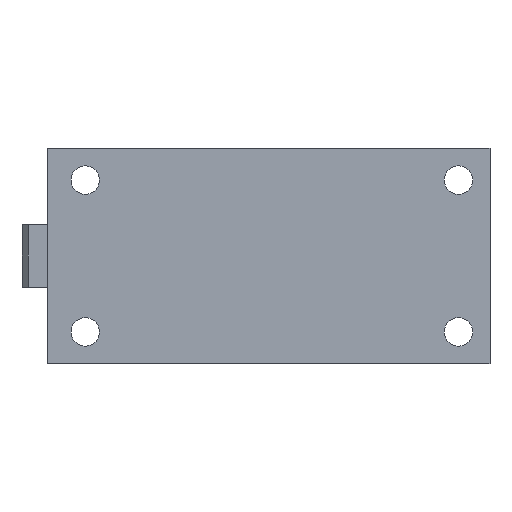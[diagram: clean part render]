
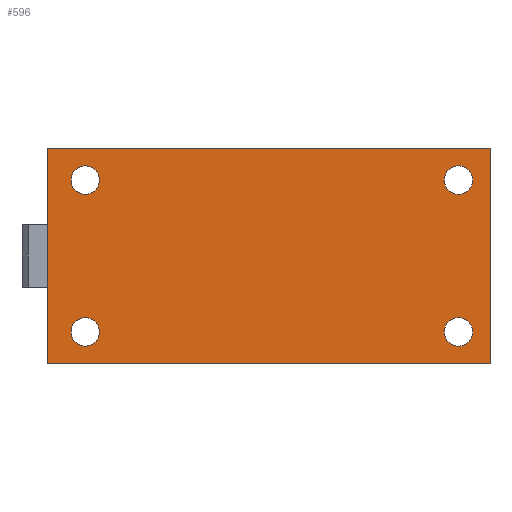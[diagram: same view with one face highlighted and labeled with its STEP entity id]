
A CAD part, front view. The second image highlights one B-rep face of the part: STEP entity #596.
In plain terms, the highlighted planar face has unit normal (0, -1, 0).
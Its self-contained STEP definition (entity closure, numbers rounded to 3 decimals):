
#596=ADVANCED_FACE('',(#1215,#1216,#1217,#1218,#1219),#1220,.F.);
#1215=FACE_OUTER_BOUND('',#1865,.T.);
#1216=FACE_BOUND('',#1866,.T.);
#1217=FACE_BOUND('',#1867,.T.);
#1218=FACE_BOUND('',#1868,.T.);
#1219=FACE_BOUND('',#1869,.T.);
#1220=PLANE('',#1870);
#1865=EDGE_LOOP('',(#4080,#4081,#4082,#4083));
#1866=EDGE_LOOP('',(#4084));
#1867=EDGE_LOOP('',(#4085));
#1868=EDGE_LOOP('',(#4086));
#1869=EDGE_LOOP('',(#4087));
#1870=AXIS2_PLACEMENT_3D('',#4088,#4089,#4090);
#4080=ORIENTED_EDGE('',*,*,#4853,.T.);
#4081=ORIENTED_EDGE('',*,*,#4854,.F.);
#4082=ORIENTED_EDGE('',*,*,#4835,.F.);
#4083=ORIENTED_EDGE('',*,*,#4848,.T.);
#4084=ORIENTED_EDGE('',*,*,#4855,.F.);
#4085=ORIENTED_EDGE('',*,*,#4856,.F.);
#4086=ORIENTED_EDGE('',*,*,#4857,.F.);
#4087=ORIENTED_EDGE('',*,*,#4858,.F.);
#4088=CARTESIAN_POINT('',(0.0,0.0,17.0));
#4089=DIRECTION('',(-0.0,1.0,0.0));
#4090=DIRECTION('',(1.0,0.0,0.0));
#4835=EDGE_CURVE('',#5997,#5999,#6000,.T.);
#4848=EDGE_CURVE('',#5997,#6021,#6023,.T.);
#4853=EDGE_CURVE('',#6021,#6032,#6033,.T.);
#4854=EDGE_CURVE('',#5999,#6032,#6034,.T.);
#4855=EDGE_CURVE('',#6035,#6035,#6036,.T.);
#4856=EDGE_CURVE('',#6037,#6037,#6038,.T.);
#4857=EDGE_CURVE('',#6039,#6039,#6040,.T.);
#4858=EDGE_CURVE('',#6041,#6041,#6042,.T.);
#5997=VERTEX_POINT('',#7846);
#5999=VERTEX_POINT('',#7849);
#6000=LINE('',#7850,#7851);
#6021=VERTEX_POINT('',#7876);
#6023=LINE('',#7879,#7880);
#6032=VERTEX_POINT('',#7889);
#6033=LINE('',#7890,#7891);
#6034=LINE('',#7892,#7893);
#6035=VERTEX_POINT('',#7894);
#6036=CIRCLE('',#7895,2.25);
#6037=VERTEX_POINT('',#7896);
#6038=CIRCLE('',#7897,2.25);
#6039=VERTEX_POINT('',#7898);
#6040=CIRCLE('',#7899,2.25);
#6041=VERTEX_POINT('',#7900);
#6042=CIRCLE('',#7901,2.25);
#7846=CARTESIAN_POINT('',(0.0,0.0,17.0));
#7849=CARTESIAN_POINT('',(70.0,0.0,17.0));
#7850=CARTESIAN_POINT('',(0.0,0.0,17.0));
#7851=VECTOR('',#8805,1.0);
#7876=CARTESIAN_POINT('',(0.0,0.0,-17.0));
#7879=CARTESIAN_POINT('',(0.0,0.0,17.0));
#7880=VECTOR('',#8832,1.0);
#7889=CARTESIAN_POINT('',(70.0,0.0,-17.0));
#7890=CARTESIAN_POINT('',(0.0,0.0,-17.0));
#7891=VECTOR('',#8845,1.0);
#7892=CARTESIAN_POINT('',(70.0,0.0,17.0));
#7893=VECTOR('',#8846,1.0);
#7894=CARTESIAN_POINT('',(6.0,0.0,14.25));
#7895=AXIS2_PLACEMENT_3D('',#8847,#8848,#8849);
#7896=CARTESIAN_POINT('',(65.0,0.0,-9.75));
#7897=AXIS2_PLACEMENT_3D('',#8850,#8851,#8852);
#7898=CARTESIAN_POINT('',(6.0,0.0,-9.75));
#7899=AXIS2_PLACEMENT_3D('',#8853,#8854,#8855);
#7900=CARTESIAN_POINT('',(65.0,0.0,14.25));
#7901=AXIS2_PLACEMENT_3D('',#8856,#8857,#8858);
#8805=DIRECTION('',(1.0,0.0,0.0));
#8832=DIRECTION('',(0.0,0.0,-1.0));
#8845=DIRECTION('',(1.0,0.0,0.0));
#8846=DIRECTION('',(0.0,0.0,-1.0));
#8847=CARTESIAN_POINT('',(6.0,0.0,12.0));
#8848=DIRECTION('',(0.0,-1.0,0.0));
#8849=DIRECTION('',(0.0,0.0,1.0));
#8850=CARTESIAN_POINT('',(65.0,0.0,-12.0));
#8851=DIRECTION('',(0.0,-1.0,0.0));
#8852=DIRECTION('',(0.0,0.0,1.0));
#8853=CARTESIAN_POINT('',(6.0,0.0,-12.0));
#8854=DIRECTION('',(0.0,-1.0,0.0));
#8855=DIRECTION('',(0.0,0.0,1.0));
#8856=CARTESIAN_POINT('',(65.0,0.0,12.0));
#8857=DIRECTION('',(0.0,-1.0,0.0));
#8858=DIRECTION('',(0.0,0.0,1.0));
